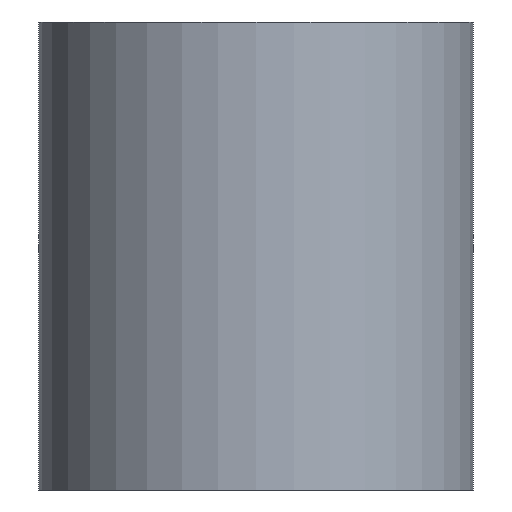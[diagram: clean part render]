
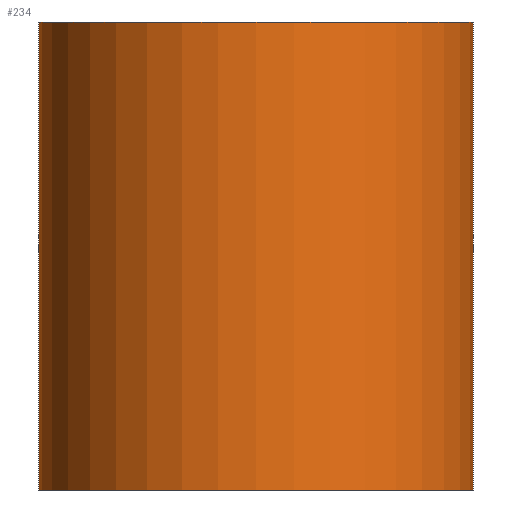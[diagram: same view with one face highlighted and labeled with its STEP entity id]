
A CAD part, front view. The second image highlights one B-rep face of the part: STEP entity #234.
In plain terms, the highlighted cylindrical face has radius 20.637 mm (diameter 41.275 mm), a partial arc.
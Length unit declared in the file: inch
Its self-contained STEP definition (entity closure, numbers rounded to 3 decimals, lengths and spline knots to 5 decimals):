
#23 = CARTESIAN_POINT ( 'NONE',  ( 0., 0., 1.75 ) ) ;
#48 = CIRCLE ( 'NONE', #100, 0.8125 ) ;
#100 = AXIS2_PLACEMENT_3D ( 'NONE', #592, #171, #247 ) ;
#102 = EDGE_CURVE ( 'NONE', #802, #839, #48, .T. ) ;
#115 = EDGE_CURVE ( 'NONE', #599, #662, #501, .T. ) ;
#117 = CYLINDRICAL_SURFACE ( 'NONE', #664, 0.8125 ) ;
#171 = DIRECTION ( 'NONE',  ( 0., 0., 1. ) ) ;
#177 = CARTESIAN_POINT ( 'NONE',  ( 0., 0., 1.75 ) ) ;
#204 = CARTESIAN_POINT ( 'NONE',  ( 0.8125, 0., 1.75 ) ) ;
#234 = ADVANCED_FACE ( 'NONE', ( #342 ), #117, .T. ) ;
#247 = DIRECTION ( 'NONE',  ( 1., 0., 0. ) ) ;
#276 = DIRECTION ( 'NONE',  ( 0., 0., -1. ) ) ;
#288 = CARTESIAN_POINT ( 'NONE',  ( -0.8125, 0., 1.75 ) ) ;
#290 = CARTESIAN_POINT ( 'NONE',  ( 0.8125, 0., 1.75 ) ) ;
#291 = AXIS2_PLACEMENT_3D ( 'NONE', #23, #731, #297 ) ;
#297 = DIRECTION ( 'NONE',  ( 1., 0., 0. ) ) ;
#298 = LINE ( 'NONE', #290, #419 ) ;
#311 = CARTESIAN_POINT ( 'NONE',  ( -0.8125, 0., 1.75 ) ) ;
#342 = FACE_OUTER_BOUND ( 'NONE', #764, .T. ) ;
#353 = DIRECTION ( 'NONE',  ( 0., 0., -1. ) ) ;
#408 = LINE ( 'NONE', #311, #544 ) ;
#419 = VECTOR ( 'NONE', #276, 39.37008 ) ;
#501 = CIRCLE ( 'NONE', #291, 0.8125 ) ;
#537 = EDGE_CURVE ( 'NONE', #599, #802, #408, .T. ) ;
#544 = VECTOR ( 'NONE', #353, 39.37008 ) ;
#560 = CARTESIAN_POINT ( 'NONE',  ( 0.8125, 0., 0. ) ) ;
#592 = CARTESIAN_POINT ( 'NONE',  ( 0., 0., 0. ) ) ;
#595 = EDGE_CURVE ( 'NONE', #662, #839, #298, .T. ) ;
#599 = VERTEX_POINT ( 'NONE', #288 ) ;
#611 = ORIENTED_EDGE ( 'NONE', *, *, #102, .T. ) ;
#618 = DIRECTION ( 'NONE',  ( -1., 0., 0. ) ) ;
#648 = ORIENTED_EDGE ( 'NONE', *, *, #595, .F. ) ;
#662 = VERTEX_POINT ( 'NONE', #204 ) ;
#664 = AXIS2_PLACEMENT_3D ( 'NONE', #177, #753, #618 ) ;
#698 = ORIENTED_EDGE ( 'NONE', *, *, #115, .F. ) ;
#731 = DIRECTION ( 'NONE',  ( 0., 0., 1. ) ) ;
#739 = ORIENTED_EDGE ( 'NONE', *, *, #537, .T. ) ;
#753 = DIRECTION ( 'NONE',  ( 0., 0., -1. ) ) ;
#764 = EDGE_LOOP ( 'NONE', ( #648, #698, #739, #611 ) ) ;
#802 = VERTEX_POINT ( 'NONE', #834 ) ;
#834 = CARTESIAN_POINT ( 'NONE',  ( -0.8125, 0., 0. ) ) ;
#839 = VERTEX_POINT ( 'NONE', #560 ) ;
